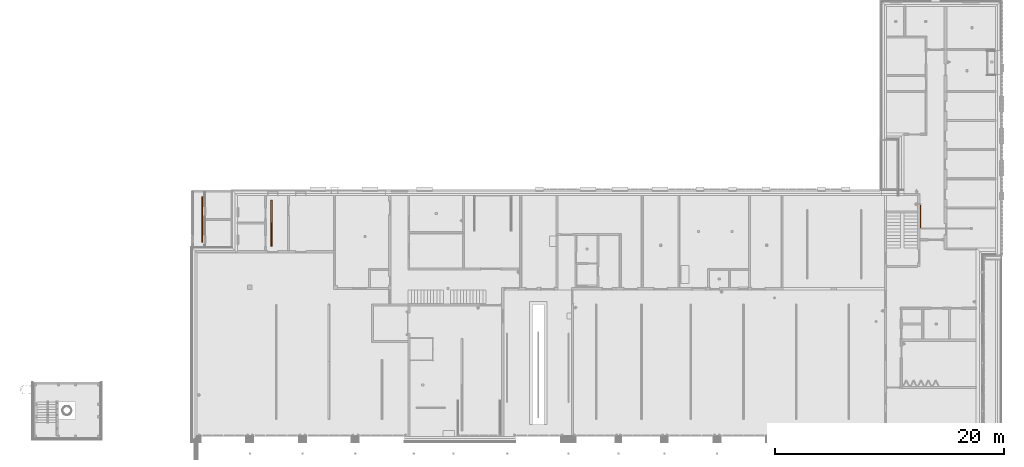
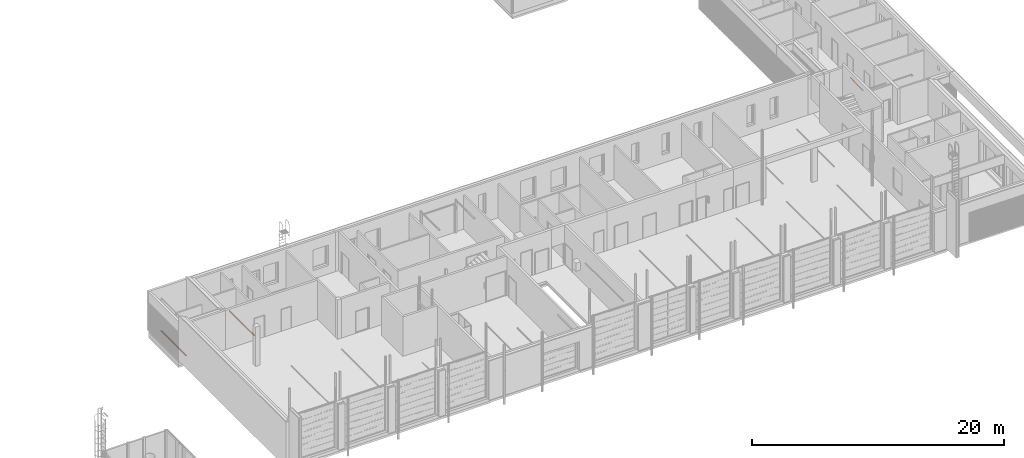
# One storey, part 105 of 112: 3 proxies.
"""IFC2X3 building model written with IfcOpenShell, lengths in millimetres."""

import ifcopenshell
import ifcopenshell.guid

model = None  # the IFC model being written
_history = None  # IfcOwnerHistory: only IFC2X3 demands one
_inside = {}  # id of a spatial element -> (the spatial element, [elements in it])
_under = {}  # id of a project, library or spatial element -> (it, [spatial elements below it])
_declared = {}  # id of a project -> (the project, [libraries it declares])
_typed = {}  # id of a type object -> (the type object, [elements of that type])
_made_of = {}  # id of a material, layer set ... -> (it, [elements and type objects made of it])


def new_model(schema):
    """Start an empty IFC model of exactly this schema.

    Asked for "IFC4X3", IfcOpenShell would pick the latest addendum, in which some entities
    have other attributes; the version numbers below select the first issue.
    IFC2X3 requires an IfcOwnerHistory on every rooted entity: one is made here for all.
    """
    global model, _history
    if schema == "IFC4X3":
        model = ifcopenshell.file(schema_version=(4, 3, 0, 0))
    else:
        model = ifcopenshell.file(schema=schema)
    _inside.clear()
    _under.clear()
    _declared.clear()
    _typed.clear()
    _made_of.clear()
    _history = None
    if model.schema == "IFC2X3":
        org = make("IfcOrganization", Name="unknown")
        user = make(
            "IfcPersonAndOrganization",
            ThePerson=make("IfcPerson", FamilyName="unknown"),
            TheOrganization=org,
        )
        app = make(
            "IfcApplication",
            ApplicationDeveloper=org,
            Version="unknown",
            ApplicationFullName="unknown",
            ApplicationIdentifier="unknown",
        )
        _history = make(
            "IfcOwnerHistory",
            OwningUser=user,
            OwningApplication=app,
            ChangeAction="ADDED",
            CreationDate=0,
        )
    return model


def make(cls, **values):
    """One entity of the class cls with the attributes given. An attribute that is None is left unset."""
    return model.create_entity(
        cls, **{name: value for name, value in values.items() if value is not None}
    )


def entity(cls, *values):
    """Any entity or typed value of the class cls, its attributes in the order of the schema. None: left unset."""
    e = model.create_entity(cls)
    for i, value in enumerate(values):
        if value is not None:
            e[i] = value
    return e


def rooted(cls, **values):
    """An entity with a GlobalId (a new one), such as an element, a storey or a relation."""
    return make(cls, GlobalId=ifcopenshell.guid.new(), OwnerHistory=_history, **values)


def si_unit(unit_type, name, prefix=None):
    """IfcSIUnit, for example si_unit("LENGTHUNIT", "METRE", prefix="MILLI")."""
    return make("IfcSIUnit", UnitType=unit_type, Prefix=prefix, Name=name)


def converted_unit(unit_type, name, factor, base, dimensions=None, offset=None):
    """IfcConversionBasedUnit, such as the inch: factor (a typed value) times the base unit."""
    return make(
        "IfcConversionBasedUnit"
        if offset is None
        else "IfcConversionBasedUnitWithOffset",
        ConversionOffset=offset,
        Dimensions=None
        if dimensions is None
        else entity("IfcDimensionalExponents", *dimensions),
        UnitType=unit_type,
        Name=name,
        ConversionFactor=make(
            "IfcMeasureWithUnit", ValueComponent=factor, UnitComponent=base
        ),
    )


def derived_unit(unit_type, elements):
    """IfcDerivedUnit: a product of units, each with its exponent."""
    return make(
        "IfcDerivedUnit",
        Elements=[
            make("IfcDerivedUnitElement", Unit=unit, Exponent=power)
            for unit, power in elements
        ],
        UnitType=unit_type,
    )


def money_unit(currency):
    """IfcMonetaryUnit."""
    return make("IfcMonetaryUnit", Currency=currency)


def assignment(units):
    """IfcUnitAssignment: the units of a project."""
    return None if units is None else make("IfcUnitAssignment", Units=units)


def point(xyz):
    """IfcCartesianPoint."""
    return None if xyz is None else make("IfcCartesianPoint", Coordinates=xyz)


def direction(xyz):
    """IfcDirection."""
    return None if xyz is None else make("IfcDirection", DirectionRatios=xyz)


def frame(location, z_axis=None, x_axis=None):
    """IfcAxis2Placement3D, a coordinate frame: its origin and axes. An axis left out is left unset."""
    return make(
        "IfcAxis2Placement3D",
        Location=point(location),
        Axis=direction(z_axis),
        RefDirection=direction(x_axis),
    )


def origin_with_axes():
    """The frame at (0, 0, 0) with the z axis (0, 0, 1) and the x axis (1, 0, 0) written out."""
    return frame((0.0, 0.0, 0.0), z_axis=(0.0, 0.0, 1.0), x_axis=(1.0, 0.0, 0.0))


def place(relative_to, where):
    """IfcLocalPlacement: puts the frame where relative to a parent placement (None: the world)."""
    return make(
        "IfcLocalPlacement", PlacementRelTo=relative_to, RelativePlacement=where
    )


def context(
    kind, dimensions, precision=None, world=None, true_north=None, identifier=None
):
    """IfcGeometricRepresentationContext, for example the 3D "Model" context."""
    return make(
        "IfcGeometricRepresentationContext",
        ContextIdentifier=identifier,
        ContextType=kind,
        CoordinateSpaceDimension=dimensions,
        Precision=precision,
        WorldCoordinateSystem=world,
        TrueNorth=true_north,
    )


def subcontext(parent, identifier, kind, view, scale=None):
    """IfcGeometricRepresentationSubContext, for example "Body" below "Model"."""
    return make(
        "IfcGeometricRepresentationSubContext",
        ContextIdentifier=identifier,
        ContextType=kind,
        ParentContext=parent,
        TargetScale=scale,
        TargetView=view,
    )


def project(units=None, contexts=None):
    """IfcProject with its units and contexts."""
    return rooted(
        "IfcProject",
        Name="project",
        RepresentationContexts=contexts,
        UnitsInContext=assignment(units),
    )


def spatial(cls, under=None, at=None, **own):
    """A site, building, storey or space (cls), placed at a placement, below another one or the project."""
    s = rooted(cls, ObjectPlacement=at, **own)
    if under is not None:
        _under.setdefault(under.id(), (under, []))[1].append(s)
    return s


def faces_of(points, faces, orient=None, outer=None):
    """IfcFace entities. A face is a list of loops; a loop is a list of indices into points, from 0.

    orient and outer hold one flag for each loop. By default every Orientation is true, the
    first loop of a face is its IfcFaceOuterBound and the others are IfcFaceBound.
    """
    made = []
    for i, loops in enumerate(faces):
        bounds = []
        for j, loop in enumerate(loops):
            is_outer = j == 0 if outer is None else outer[i][j]
            bounds.append(
                make(
                    "IfcFaceOuterBound" if is_outer else "IfcFaceBound",
                    Bound=make("IfcPolyLoop", Polygon=[points[k] for k in loop]),
                    Orientation=True if orient is None else orient[i][j],
                )
            )
        made.append(make("IfcFace", Bounds=bounds))
    return made


def faceted_brep(points, faces, orient=None, outer=None, voids=None):
    """IfcFacetedBrep: a solid bounded by flat faces; with voids (closed shells), ...WithVoids."""
    shared = [point(p) for p in points]
    hull = make("IfcClosedShell", CfsFaces=faces_of(shared, faces, orient, outer))
    if voids is None:
        return make("IfcFacetedBrep", Outer=hull)
    return make(
        "IfcFacetedBrepWithVoids",
        Outer=hull,
        Voids=[
            make(cls, CfsFaces=faces_of(shared, fs, o, b)) for cls, fs, o, b in voids
        ],
    )


def shape(context_of_items, identifier, shape_type, items):
    """IfcShapeRepresentation: the items that make up one representation, for example the "Body"."""
    return make(
        "IfcShapeRepresentation",
        ContextOfItems=context_of_items,
        RepresentationIdentifier=identifier,
        RepresentationType=shape_type,
        Items=items,
    )


def made_of(thing, what):
    """Note that an element or type object is made of a material, layer set ...; save() writes the relation."""
    if what is not None:
        _made_of.setdefault(what.id(), (what, []))[1].append(thing)
    return thing


def type_object(cls, material=None, **own):
    """A type object (cls), such as IfcWallType, which elements share."""
    return made_of(rooted(cls, **own), material)


def element(
    cls,
    number,
    at=None,
    inside=None,
    cuts=None,
    type_object=None,
    material=None,
    context=None,
    identifier="Body",
    shape_type=None,
    held_by="IfcProductDefinitionShape",
    body=None,
    shapes=None,
    **own,
):
    """One element of the class cls, such as IfcWall. Its Tag is "e" and its number.

    at: its placement. inside: the storey or other place that contains it. cuts: it is an
    opening in that element (IfcRelVoidsElement). A single representation is given by context,
    identifier, shape_type and body (its items); several are given by shapes. held_by: the class
    of the entity that holds the representations. save() writes the other relations.
    """
    e = rooted(cls, Tag="e%d" % number, ObjectPlacement=at, **own)
    if body is not None:
        shapes = [shape(context, identifier, shape_type, body)]
    if shapes is not None:
        e.Representation = make(held_by, Representations=shapes)
    if inside is not None:
        _inside.setdefault(inside.id(), (inside, []))[1].append(e)
    if cuts is not None:
        rooted(
            "IfcRelVoidsElement", RelatingBuildingElement=cuts, RelatedOpeningElement=e
        )
    if type_object is not None:
        _typed.setdefault(type_object.id(), (type_object, []))[1].append(e)
    return made_of(e, material)


def aggregate(whole, parts):
    """IfcRelAggregates: a whole, such as a stair, and the parts it consists of."""
    return rooted("IfcRelAggregates", RelatingObject=whole, RelatedObjects=parts)


def save(model, path):
    """Write the relations noted so far, then the file.

    IfcRelAggregates (storeys below a building ...), IfcRelContainedInSpatialStructure (elements
    in a storey), IfcRelDefinesByType, IfcRelAssociatesMaterial and IfcRelDeclares: one each for
    every whole, place, type object, material and project.
    """
    for whole, parts in _under.values():
        aggregate(whole, parts)
    for where, things in _inside.values():
        rooted(
            "IfcRelContainedInSpatialStructure",
            RelatedElements=things,
            RelatingStructure=where,
        )
    for kind, things in _typed.values():
        rooted("IfcRelDefinesByType", RelatedObjects=things, RelatingType=kind)
    for what, things in _made_of.values():
        rooted("IfcRelAssociatesMaterial", RelatedObjects=things, RelatingMaterial=what)
    for by, libraries in _declared.values():
        rooted("IfcRelDeclares", RelatingContext=by, RelatedDefinitions=libraries)
    model.write(path)


model = new_model("IFC2X3")

# Units and contexts
model_context = context("Model", 3, precision=0.01, world=origin_with_axes(), true_north=direction((0.0, 1.0)))
body_context = subcontext(model_context, "Body", "Model", "MODEL_VIEW")
ifc_project = project(units=[si_unit("LENGTHUNIT", "METRE", prefix="MILLI"), si_unit("AREAUNIT", "SQUARE_METRE"), si_unit("VOLUMEUNIT", "CUBIC_METRE"), converted_unit("PLANEANGLEUNIT", "DEGREE", entity("IfcPlaneAngleMeasure", 0.0174532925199), si_unit("PLANEANGLEUNIT", "RADIAN"), dimensions=[0, 0, 0, 0, 0, 0, 0]), si_unit("SOLIDANGLEUNIT", "STERADIAN"), money_unit("EUR"), converted_unit("TIMEUNIT", "Year", entity("IfcTimeMeasure", 31556926.0), si_unit("TIMEUNIT", "SECOND"), dimensions=[0, 0, 1, 0, 0, 0, 0]), si_unit("MASSUNIT", "GRAM", prefix="KILO"), si_unit("THERMODYNAMICTEMPERATUREUNIT", "DEGREE_CELSIUS"), si_unit("LUMINOUSINTENSITYUNIT", "LUMEN"), si_unit("ENERGYUNIT", "JOULE", prefix="MEGA"), derived_unit("THERMALCONDUCTANCEUNIT", [(si_unit("POWERUNIT", "WATT"), 1), (si_unit("LENGTHUNIT", "METRE"), -1), (si_unit("THERMODYNAMICTEMPERATUREUNIT", "KELVIN"), -1)]), derived_unit("SPECIFICHEATCAPACITYUNIT", [(si_unit("ENERGYUNIT", "JOULE"), 1), (si_unit("MASSUNIT", "GRAM", prefix="KILO"), -1), (si_unit("THERMODYNAMICTEMPERATUREUNIT", "KELVIN"), -1)]), derived_unit("MASSDENSITYUNIT", [(si_unit("MASSUNIT", "GRAM", prefix="KILO"), 1), (si_unit("VOLUMEUNIT", "CUBIC_METRE"), -1)])], contexts=[model_context])

# Site, building, storey
site_placement = place(None, origin_with_axes())
site = spatial("IfcSite", under=ifc_project, at=site_placement, Name="Politse- ja Piirivalveameti ning Päästeameti ühishoone", CompositionType="ELEMENT")
building_placement = place(site_placement, origin_with_axes())
building = spatial("IfcBuilding", under=site, at=building_placement, Name="Politse- ja Piirivalveameti ning Päästeameti ühishoone", CompositionType="ELEMENT")
storey_placement = place(building_placement, origin_with_axes())
storey = spatial("IfcBuildingStorey", under=building, at=storey_placement, Name="Esimene korrus", CompositionType="ELEMENT", Elevation=0.0)

# Proxies
building_element_proxy_type_1 = type_object("IfcBuildingElementProxyType", Name="Grid 23", PredefinedType="NOTDEFINED")
proxy_1_placement = place(storey_placement, frame((383.831650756, 16909.9882638, -100.0), z_axis=(0.0, 0.0, 1.0), x_axis=(1.0, 0.0, 0.0)))
element("IfcBuildingElementProxy", 1, at=proxy_1_placement, inside=storey, type_object=building_element_proxy_type_1, Name="Äravoolurenn (koertekennel)", context=body_context, shape_type="Brep", body=[
    faceted_brep([(0.0, 0.0, 0.0), (5.0, 5.0, 0.0), (5.0, 5.0, 100.0), (0.0, 0.0, 100.0), (0.0, 4000.0, 0.0), (5.0, 3995.0, 0.0), (5.0, 2001.0, 0.0), (5.0, 1999.0, 0.0), (5.0, 1999.0, 100.0), (5.0, 2001.0, 100.0), (5.0, 3995.0, 100.0), (0.0, 4000.0, 100.0)], [[[0, 1, 2, 3]], [[0, 4, 5, 6, 7, 1]], [[1, 7, 8, 2]], [[3, 2, 8, 9, 10, 11]], [[4, 0, 3, 11]], [[5, 4, 11, 10]], [[6, 5, 10, 9]], [[7, 6, 9, 8]]]),
    faceted_brep([(100.0, 4000.0, 0.0), (95.0, 3995.0, 0.0), (95.0, 3995.0, 100.0), (100.0, 4000.0, 100.0), (100.0, 0.0, 0.0), (95.0, 5.0, 0.0), (95.0, 1999.0, 0.0), (95.0, 2001.0, 0.0), (95.0, 2001.0, 100.0), (95.0, 1999.0, 100.0), (95.0, 5.0, 100.0), (100.0, 0.0, 100.0)], [[[0, 1, 2, 3]], [[0, 4, 5, 6, 7, 1]], [[1, 7, 8, 2]], [[3, 2, 8, 9, 10, 11]], [[4, 0, 3, 11]], [[5, 4, 11, 10]], [[6, 5, 10, 9]], [[7, 6, 9, 8]]]),
    faceted_brep([(100.0, 0.0, 0.0), (95.0, 5.0, 0.0), (95.0, 5.0, 100.0), (100.0, 0.0, 100.0), (0.0, 0.0, 0.0), (5.0, 5.0, 0.0), (33.1666666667, 5.0, 0.0), (35.1666666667, 5.0, 0.0), (64.8333333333, 5.0, 0.0), (66.8333333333, 5.0, 0.0), (66.8333333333, 5.0, 100.0), (64.8333333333, 5.0, 100.0), (35.1666666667, 5.0, 100.0), (33.1666666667, 5.0, 100.0), (5.0, 5.0, 100.0), (0.0, 0.0, 100.0)], [[[0, 1, 2, 3]], [[0, 4, 5, 6, 7, 8, 9, 1]], [[1, 9, 10, 2]], [[3, 2, 10, 11, 12, 13, 14, 15]], [[4, 0, 3, 15]], [[5, 4, 15, 14]], [[6, 5, 14, 13]], [[7, 6, 13, 12]], [[8, 7, 12, 11]], [[9, 8, 11, 10]]]),
    faceted_brep([(0.0, 4000.0, 0.0), (5.0, 3995.0, 0.0), (5.0, 3995.0, 100.0), (0.0, 4000.0, 100.0), (100.0, 4000.0, 0.0), (95.0, 3995.0, 0.0), (66.8333333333, 3995.0, 0.0), (64.8333333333, 3995.0, 0.0), (35.1666666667, 3995.0, 0.0), (33.1666666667, 3995.0, 0.0), (33.1666666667, 3995.0, 100.0), (35.1666666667, 3995.0, 100.0), (64.8333333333, 3995.0, 100.0), (66.8333333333, 3995.0, 100.0), (95.0, 3995.0, 100.0), (100.0, 4000.0, 100.0)], [[[0, 1, 2, 3]], [[0, 4, 5, 6, 7, 8, 9, 1]], [[1, 9, 10, 2]], [[3, 2, 10, 11, 12, 13, 14, 15]], [[4, 0, 3, 15]], [[5, 4, 15, 14]], [[6, 5, 14, 13]], [[7, 6, 13, 12]], [[8, 7, 12, 11]], [[9, 8, 11, 10]]]),
    faceted_brep([(33.1666666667, 5.0, 0.0), (35.1666666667, 5.0, 0.0), (35.1666666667, 5.0, 100.0), (33.1666666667, 5.0, 100.0), (33.1666666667, 1999.0, 0.0), (33.1666666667, 2001.0, 0.0), (33.1666666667, 3995.0, 0.0), (35.1666666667, 3995.0, 0.0), (35.1666666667, 2001.0, 0.0), (35.1666666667, 1999.0, 0.0), (35.1666666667, 1999.0, 100.0), (35.1666666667, 2001.0, 100.0), (35.1666666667, 3995.0, 100.0), (33.1666666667, 3995.0, 100.0), (33.1666666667, 2001.0, 100.0), (33.1666666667, 1999.0, 100.0)], [[[0, 1, 2, 3]], [[0, 4, 5, 6, 7, 8, 9, 1]], [[1, 9, 10, 2]], [[3, 2, 10, 11, 12, 13, 14, 15]], [[4, 0, 3, 15]], [[5, 4, 15, 14]], [[6, 5, 14, 13]], [[7, 6, 13, 12]], [[8, 7, 12, 11]], [[9, 8, 11, 10]]]),
    faceted_brep([(64.8333333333, 5.0, 0.0), (66.8333333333, 5.0, 0.0), (66.8333333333, 5.0, 100.0), (64.8333333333, 5.0, 100.0), (64.8333333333, 1999.0, 0.0), (64.8333333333, 2001.0, 0.0), (64.8333333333, 3995.0, 0.0), (66.8333333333, 3995.0, 0.0), (66.8333333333, 2001.0, 0.0), (66.8333333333, 1999.0, 0.0), (66.8333333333, 1999.0, 100.0), (66.8333333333, 2001.0, 100.0), (66.8333333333, 3995.0, 100.0), (64.8333333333, 3995.0, 100.0), (64.8333333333, 2001.0, 100.0), (64.8333333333, 1999.0, 100.0)], [[[0, 1, 2, 3]], [[0, 4, 5, 6, 7, 8, 9, 1]], [[1, 9, 10, 2]], [[3, 2, 10, 11, 12, 13, 14, 15]], [[4, 0, 3, 15]], [[5, 4, 15, 14]], [[6, 5, 14, 13]], [[7, 6, 13, 12]], [[8, 7, 12, 11]], [[9, 8, 11, 10]]]),
    faceted_brep([(33.1666666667, 1999.0, 0.0), (33.1666666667, 2001.0, 0.0), (33.1666666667, 2001.0, 100.0), (33.1666666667, 1999.0, 100.0), (5.0, 1999.0, 0.0), (5.0, 2001.0, 0.0), (5.0, 2001.0, 100.0), (5.0, 1999.0, 100.0)], [[[0, 1, 2, 3]], [[0, 4, 5, 1]], [[1, 5, 6, 2]], [[3, 2, 6, 7]], [[4, 0, 3, 7]], [[5, 4, 7, 6]]]),
    faceted_brep([(64.8333333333, 1999.0, 0.0), (64.8333333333, 2001.0, 0.0), (64.8333333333, 2001.0, 100.0), (64.8333333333, 1999.0, 100.0), (35.1666666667, 1999.0, 0.0), (35.1666666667, 2001.0, 0.0), (35.1666666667, 2001.0, 100.0), (35.1666666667, 1999.0, 100.0)], [[[0, 1, 2, 3]], [[0, 4, 5, 1]], [[1, 5, 6, 2]], [[3, 2, 6, 7]], [[4, 0, 3, 7]], [[5, 4, 7, 6]]]),
    faceted_brep([(95.0, 1999.0, 0.0), (95.0, 2001.0, 0.0), (95.0, 2001.0, 100.0), (95.0, 1999.0, 100.0), (66.8333333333, 1999.0, 0.0), (66.8333333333, 2001.0, 0.0), (66.8333333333, 2001.0, 100.0), (66.8333333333, 1999.0, 100.0)], [[[0, 1, 2, 3]], [[0, 4, 5, 1]], [[1, 5, 6, 2]], [[3, 2, 6, 7]], [[4, 0, 3, 7]], [[5, 4, 7, 6]]]),
    faceted_brep([(5.0, 5.0, 43.65), (33.1666666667, 5.0, 43.65), (33.1666666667, 5.0, 56.35), (5.0, 5.0, 56.35), (5.0, 1999.0, 43.65), (33.1666666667, 1999.0, 43.65), (33.1666666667, 1999.0, 56.35), (5.0, 1999.0, 56.35)], [[[0, 1, 2, 3]], [[0, 4, 5, 1]], [[1, 5, 6, 2]], [[3, 2, 6, 7]], [[4, 0, 3, 7]], [[5, 4, 7, 6]]]),
    faceted_brep([(5.0, 2001.0, 43.65), (33.1666666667, 2001.0, 43.65), (33.1666666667, 2001.0, 56.35), (5.0, 2001.0, 56.35), (5.0, 3995.0, 43.65), (33.1666666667, 3995.0, 43.65), (33.1666666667, 3995.0, 56.35), (5.0, 3995.0, 56.35)], [[[0, 1, 2, 3]], [[0, 4, 5, 1]], [[1, 5, 6, 2]], [[3, 2, 6, 7]], [[4, 0, 3, 7]], [[5, 4, 7, 6]]]),
    faceted_brep([(35.1666666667, 5.0, 43.65), (64.8333333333, 5.0, 43.65), (64.8333333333, 5.0, 56.35), (35.1666666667, 5.0, 56.35), (35.1666666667, 1999.0, 43.65), (64.8333333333, 1999.0, 43.65), (64.8333333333, 1999.0, 56.35), (35.1666666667, 1999.0, 56.35)], [[[0, 1, 2, 3]], [[0, 4, 5, 1]], [[1, 5, 6, 2]], [[3, 2, 6, 7]], [[4, 0, 3, 7]], [[5, 4, 7, 6]]]),
    faceted_brep([(35.1666666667, 2001.0, 43.65), (64.8333333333, 2001.0, 43.65), (64.8333333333, 2001.0, 56.35), (35.1666666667, 2001.0, 56.35), (35.1666666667, 3995.0, 43.65), (64.8333333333, 3995.0, 43.65), (64.8333333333, 3995.0, 56.35), (35.1666666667, 3995.0, 56.35)], [[[0, 1, 2, 3]], [[0, 4, 5, 1]], [[1, 5, 6, 2]], [[3, 2, 6, 7]], [[4, 0, 3, 7]], [[5, 4, 7, 6]]]),
    faceted_brep([(66.8333333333, 5.0, 43.65), (95.0, 5.0, 43.65), (95.0, 5.0, 56.35), (66.8333333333, 5.0, 56.35), (66.8333333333, 1999.0, 43.65), (95.0, 1999.0, 43.65), (95.0, 1999.0, 56.35), (66.8333333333, 1999.0, 56.35)], [[[0, 1, 2, 3]], [[0, 4, 5, 1]], [[1, 5, 6, 2]], [[3, 2, 6, 7]], [[4, 0, 3, 7]], [[5, 4, 7, 6]]]),
    faceted_brep([(66.8333333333, 2001.0, 43.65), (95.0, 2001.0, 43.65), (95.0, 2001.0, 56.35), (66.8333333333, 2001.0, 56.35), (66.8333333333, 3995.0, 43.65), (95.0, 3995.0, 43.65), (95.0, 3995.0, 56.35), (66.8333333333, 3995.0, 56.35)], [[[0, 1, 2, 3]], [[0, 4, 5, 1]], [[1, 5, 6, 2]], [[3, 2, 6, 7]], [[4, 0, 3, 7]], [[5, 4, 7, 6]]]),
])
proxy_2_placement = place(storey_placement, frame((6440.00901389, 16590.0244444, -100.0), z_axis=(0.0, 0.0, 1.0), x_axis=(1.0, 0.0, 0.0)))
element("IfcBuildingElementProxy", 2, at=proxy_2_placement, inside=storey, type_object=building_element_proxy_type_1, Name="Äravoolurenn (102)", context=body_context, shape_type="Brep", body=[
    faceted_brep([(0.0, 0.0, 0.0), (5.0, 5.0, 0.0), (5.0, 5.0, 100.0), (0.0, 0.0, 100.0), (0.0, 4000.0, 0.0), (5.0, 3995.0, 0.0), (5.0, 2001.0, 0.0), (5.0, 1999.0, 0.0), (5.0, 1999.0, 100.0), (5.0, 2001.0, 100.0), (5.0, 3995.0, 100.0), (0.0, 4000.0, 100.0)], [[[0, 1, 2, 3]], [[0, 4, 5, 6, 7, 1]], [[1, 7, 8, 2]], [[3, 2, 8, 9, 10, 11]], [[4, 0, 3, 11]], [[5, 4, 11, 10]], [[6, 5, 10, 9]], [[7, 6, 9, 8]]]),
    faceted_brep([(100.0, 4000.0, 0.0), (95.0, 3995.0, 0.0), (95.0, 3995.0, 100.0), (100.0, 4000.0, 100.0), (100.0, 0.0, 0.0), (95.0, 5.0, 0.0), (95.0, 1999.0, 0.0), (95.0, 2001.0, 0.0), (95.0, 2001.0, 100.0), (95.0, 1999.0, 100.0), (95.0, 5.0, 100.0), (100.0, 0.0, 100.0)], [[[0, 1, 2, 3]], [[0, 4, 5, 6, 7, 1]], [[1, 7, 8, 2]], [[3, 2, 8, 9, 10, 11]], [[4, 0, 3, 11]], [[5, 4, 11, 10]], [[6, 5, 10, 9]], [[7, 6, 9, 8]]]),
    faceted_brep([(100.0, 0.0, 0.0), (95.0, 5.0, 0.0), (95.0, 5.0, 100.0), (100.0, 0.0, 100.0), (0.0, 0.0, 0.0), (5.0, 5.0, 0.0), (25.25, 5.0, 0.0), (27.25, 5.0, 0.0), (49.0, 5.0, 0.0), (51.0, 5.0, 0.0), (72.75, 5.0, 0.0), (74.75, 5.0, 0.0), (74.75, 5.0, 100.0), (72.75, 5.0, 100.0), (51.0, 5.0, 100.0), (49.0, 5.0, 100.0), (27.25, 5.0, 100.0), (25.25, 5.0, 100.0), (5.0, 5.0, 100.0), (0.0, 0.0, 100.0)], [[[0, 1, 2, 3]], [[0, 4, 5, 6, 7, 8, 9, 10, 11, 1]], [[1, 11, 12, 2]], [[3, 2, 12, 13, 14, 15, 16, 17, 18, 19]], [[4, 0, 3, 19]], [[5, 4, 19, 18]], [[6, 5, 18, 17]], [[7, 6, 17, 16]], [[8, 7, 16, 15]], [[9, 8, 15, 14]], [[10, 9, 14, 13]], [[11, 10, 13, 12]]]),
    faceted_brep([(0.0, 4000.0, 0.0), (5.0, 3995.0, 0.0), (5.0, 3995.0, 100.0), (0.0, 4000.0, 100.0), (100.0, 4000.0, 0.0), (95.0, 3995.0, 0.0), (74.75, 3995.0, 0.0), (72.75, 3995.0, 0.0), (51.0, 3995.0, 0.0), (49.0, 3995.0, 0.0), (27.25, 3995.0, 0.0), (25.25, 3995.0, 0.0), (25.25, 3995.0, 100.0), (27.25, 3995.0, 100.0), (49.0, 3995.0, 100.0), (51.0, 3995.0, 100.0), (72.75, 3995.0, 100.0), (74.75, 3995.0, 100.0), (95.0, 3995.0, 100.0), (100.0, 4000.0, 100.0)], [[[0, 1, 2, 3]], [[0, 4, 5, 6, 7, 8, 9, 10, 11, 1]], [[1, 11, 12, 2]], [[3, 2, 12, 13, 14, 15, 16, 17, 18, 19]], [[4, 0, 3, 19]], [[5, 4, 19, 18]], [[6, 5, 18, 17]], [[7, 6, 17, 16]], [[8, 7, 16, 15]], [[9, 8, 15, 14]], [[10, 9, 14, 13]], [[11, 10, 13, 12]]]),
    faceted_brep([(25.25, 5.0, 0.0), (27.25, 5.0, 0.0), (27.25, 5.0, 100.0), (25.25, 5.0, 100.0), (25.25, 1999.0, 0.0), (25.25, 2001.0, 0.0), (25.25, 3995.0, 0.0), (27.25, 3995.0, 0.0), (27.25, 2001.0, 0.0), (27.25, 1999.0, 0.0), (27.25, 1999.0, 100.0), (27.25, 2001.0, 100.0), (27.25, 3995.0, 100.0), (25.25, 3995.0, 100.0), (25.25, 2001.0, 100.0), (25.25, 1999.0, 100.0)], [[[0, 1, 2, 3]], [[0, 4, 5, 6, 7, 8, 9, 1]], [[1, 9, 10, 2]], [[3, 2, 10, 11, 12, 13, 14, 15]], [[4, 0, 3, 15]], [[5, 4, 15, 14]], [[6, 5, 14, 13]], [[7, 6, 13, 12]], [[8, 7, 12, 11]], [[9, 8, 11, 10]]]),
    faceted_brep([(49.0, 5.0, 0.0), (51.0, 5.0, 0.0), (51.0, 5.0, 100.0), (49.0, 5.0, 100.0), (49.0, 1999.0, 0.0), (49.0, 2001.0, 0.0), (49.0, 3995.0, 0.0), (51.0, 3995.0, 0.0), (51.0, 2001.0, 0.0), (51.0, 1999.0, 0.0), (51.0, 1999.0, 100.0), (51.0, 2001.0, 100.0), (51.0, 3995.0, 100.0), (49.0, 3995.0, 100.0), (49.0, 2001.0, 100.0), (49.0, 1999.0, 100.0)], [[[0, 1, 2, 3]], [[0, 4, 5, 6, 7, 8, 9, 1]], [[1, 9, 10, 2]], [[3, 2, 10, 11, 12, 13, 14, 15]], [[4, 0, 3, 15]], [[5, 4, 15, 14]], [[6, 5, 14, 13]], [[7, 6, 13, 12]], [[8, 7, 12, 11]], [[9, 8, 11, 10]]]),
    faceted_brep([(72.75, 5.0, 0.0), (74.75, 5.0, 0.0), (74.75, 5.0, 100.0), (72.75, 5.0, 100.0), (72.75, 1999.0, 0.0), (72.75, 2001.0, 0.0), (72.75, 3995.0, 0.0), (74.75, 3995.0, 0.0), (74.75, 2001.0, 0.0), (74.75, 1999.0, 0.0), (74.75, 1999.0, 100.0), (74.75, 2001.0, 100.0), (74.75, 3995.0, 100.0), (72.75, 3995.0, 100.0), (72.75, 2001.0, 100.0), (72.75, 1999.0, 100.0)], [[[0, 1, 2, 3]], [[0, 4, 5, 6, 7, 8, 9, 1]], [[1, 9, 10, 2]], [[3, 2, 10, 11, 12, 13, 14, 15]], [[4, 0, 3, 15]], [[5, 4, 15, 14]], [[6, 5, 14, 13]], [[7, 6, 13, 12]], [[8, 7, 12, 11]], [[9, 8, 11, 10]]]),
    faceted_brep([(25.25, 1999.0, 0.0), (25.25, 2001.0, 0.0), (25.25, 2001.0, 100.0), (25.25, 1999.0, 100.0), (5.0, 1999.0, 0.0), (5.0, 2001.0, 0.0), (5.0, 2001.0, 100.0), (5.0, 1999.0, 100.0)], [[[0, 1, 2, 3]], [[0, 4, 5, 1]], [[1, 5, 6, 2]], [[3, 2, 6, 7]], [[4, 0, 3, 7]], [[5, 4, 7, 6]]]),
    faceted_brep([(49.0, 1999.0, 0.0), (49.0, 2001.0, 0.0), (49.0, 2001.0, 100.0), (49.0, 1999.0, 100.0), (27.25, 1999.0, 0.0), (27.25, 2001.0, 0.0), (27.25, 2001.0, 100.0), (27.25, 1999.0, 100.0)], [[[0, 1, 2, 3]], [[0, 4, 5, 1]], [[1, 5, 6, 2]], [[3, 2, 6, 7]], [[4, 0, 3, 7]], [[5, 4, 7, 6]]]),
    faceted_brep([(72.75, 1999.0, 0.0), (72.75, 2001.0, 0.0), (72.75, 2001.0, 100.0), (72.75, 1999.0, 100.0), (51.0, 1999.0, 0.0), (51.0, 2001.0, 0.0), (51.0, 2001.0, 100.0), (51.0, 1999.0, 100.0)], [[[0, 1, 2, 3]], [[0, 4, 5, 1]], [[1, 5, 6, 2]], [[3, 2, 6, 7]], [[4, 0, 3, 7]], [[5, 4, 7, 6]]]),
    faceted_brep([(95.0, 1999.0, 0.0), (95.0, 2001.0, 0.0), (95.0, 2001.0, 100.0), (95.0, 1999.0, 100.0), (74.75, 1999.0, 0.0), (74.75, 2001.0, 0.0), (74.75, 2001.0, 100.0), (74.75, 1999.0, 100.0)], [[[0, 1, 2, 3]], [[0, 4, 5, 1]], [[1, 5, 6, 2]], [[3, 2, 6, 7]], [[4, 0, 3, 7]], [[5, 4, 7, 6]]]),
    faceted_brep([(5.0, 5.0, 43.65), (25.25, 5.0, 43.65), (25.25, 5.0, 56.35), (5.0, 5.0, 56.35), (5.0, 1999.0, 43.65), (25.25, 1999.0, 43.65), (25.25, 1999.0, 56.35), (5.0, 1999.0, 56.35)], [[[0, 1, 2, 3]], [[0, 4, 5, 1]], [[1, 5, 6, 2]], [[3, 2, 6, 7]], [[4, 0, 3, 7]], [[5, 4, 7, 6]]]),
    faceted_brep([(5.0, 2001.0, 43.65), (25.25, 2001.0, 43.65), (25.25, 2001.0, 56.35), (5.0, 2001.0, 56.35), (5.0, 3995.0, 43.65), (25.25, 3995.0, 43.65), (25.25, 3995.0, 56.35), (5.0, 3995.0, 56.35)], [[[0, 1, 2, 3]], [[0, 4, 5, 1]], [[1, 5, 6, 2]], [[3, 2, 6, 7]], [[4, 0, 3, 7]], [[5, 4, 7, 6]]]),
    faceted_brep([(27.25, 5.0, 43.65), (49.0, 5.0, 43.65), (49.0, 5.0, 56.35), (27.25, 5.0, 56.35), (27.25, 1999.0, 43.65), (49.0, 1999.0, 43.65), (49.0, 1999.0, 56.35), (27.25, 1999.0, 56.35)], [[[0, 1, 2, 3]], [[0, 4, 5, 1]], [[1, 5, 6, 2]], [[3, 2, 6, 7]], [[4, 0, 3, 7]], [[5, 4, 7, 6]]]),
    faceted_brep([(27.25, 2001.0, 43.65), (49.0, 2001.0, 43.65), (49.0, 2001.0, 56.35), (27.25, 2001.0, 56.35), (27.25, 3995.0, 43.65), (49.0, 3995.0, 43.65), (49.0, 3995.0, 56.35), (27.25, 3995.0, 56.35)], [[[0, 1, 2, 3]], [[0, 4, 5, 1]], [[1, 5, 6, 2]], [[3, 2, 6, 7]], [[4, 0, 3, 7]], [[5, 4, 7, 6]]]),
    faceted_brep([(51.0, 5.0, 43.65), (72.75, 5.0, 43.65), (72.75, 5.0, 56.35), (51.0, 5.0, 56.35), (51.0, 1999.0, 43.65), (72.75, 1999.0, 43.65), (72.75, 1999.0, 56.35), (51.0, 1999.0, 56.35)], [[[0, 1, 2, 3]], [[0, 4, 5, 1]], [[1, 5, 6, 2]], [[3, 2, 6, 7]], [[4, 0, 3, 7]], [[5, 4, 7, 6]]]),
    faceted_brep([(51.0, 2001.0, 43.65), (72.75, 2001.0, 43.65), (72.75, 2001.0, 56.35), (51.0, 2001.0, 56.35), (51.0, 3995.0, 43.65), (72.75, 3995.0, 43.65), (72.75, 3995.0, 56.35), (51.0, 3995.0, 56.35)], [[[0, 1, 2, 3]], [[0, 4, 5, 1]], [[1, 5, 6, 2]], [[3, 2, 6, 7]], [[4, 0, 3, 7]], [[5, 4, 7, 6]]]),
    faceted_brep([(74.75, 5.0, 43.65), (95.0, 5.0, 43.65), (95.0, 5.0, 56.35), (74.75, 5.0, 56.35), (74.75, 1999.0, 43.65), (95.0, 1999.0, 43.65), (95.0, 1999.0, 56.35), (74.75, 1999.0, 56.35)], [[[0, 1, 2, 3]], [[0, 4, 5, 1]], [[1, 5, 6, 2]], [[3, 2, 6, 7]], [[4, 0, 3, 7]], [[5, 4, 7, 6]]]),
    faceted_brep([(74.75, 2001.0, 43.65), (95.0, 2001.0, 43.65), (95.0, 2001.0, 56.35), (74.75, 2001.0, 56.35), (74.75, 3995.0, 43.65), (95.0, 3995.0, 43.65), (95.0, 3995.0, 56.35), (74.75, 3995.0, 56.35)], [[[0, 1, 2, 3]], [[0, 4, 5, 1]], [[1, 5, 6, 2]], [[3, 2, 6, 7]], [[4, 0, 3, 7]], [[5, 4, 7, 6]]]),
])
building_element_proxy_type_2 = type_object("IfcBuildingElementProxyType", Name="Tube 23", PredefinedType="NOTDEFINED")
proxy_3_placement = place(storey_placement, frame((63110.6441918, 20203.9447321, 2925.0), z_axis=(0.0, 0.0, 1.0), x_axis=(0.0, 1.0, 0.0)))
element("IfcBuildingElementProxy", 3, at=proxy_3_placement, inside=storey, type_object=building_element_proxy_type_2, Name="Balloon Novec 1231", context=body_context, shape_type="Brep", body=[
    faceted_brep([(0.0, 0.0, -25.0), (0.0, 6.47047612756, -24.1481456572), (0.0, 12.5, -21.6506350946), (0.0, 17.6776695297, -17.6776695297), (0.0, 21.6506350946, -12.5), (0.0, 24.1481456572, -6.47047612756), (0.0, 25.0, 0.0), (0.0, 24.1481456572, 6.47047612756), (0.0, 21.6506350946, 12.5), (0.0, 17.6776695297, 17.6776695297), (0.0, 12.5, 21.6506350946), (0.0, 6.47047612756, 24.1481456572), (0.0, 0.0, 25.0), (0.0, -6.47047612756, 24.1481456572), (0.0, -12.5, 21.6506350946), (0.0, -17.6776695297, 17.6776695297), (0.0, -21.6506350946, 12.5), (0.0, -24.1481456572, 6.47047612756), (0.0, -25.0, 0.0), (0.0, -24.1481456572, -6.47047612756), (0.0, -21.6506350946, -12.5), (0.0, -17.6776695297, -17.6776695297), (0.0, -12.5, -21.6506350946), (0.0, -6.47047612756, -24.1481456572), (0.0, -11.0, -19.0525588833), (0.0, -15.5563491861, -15.5563491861), (0.0, -19.0525588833, -11.0), (0.0, -21.2503681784, -5.69401899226), (0.0, -22.0, 0.0), (0.0, -21.2503681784, 5.69401899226), (0.0, -19.0525588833, 11.0), (0.0, -15.5563491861, 15.5563491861), (0.0, -11.0, 19.0525588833), (0.0, -5.69401899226, 21.2503681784), (0.0, 0.0, 22.0), (0.0, 5.69401899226, 21.2503681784), (0.0, 11.0, 19.0525588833), (0.0, 15.5563491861, 15.5563491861), (0.0, 19.0525588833, 11.0), (0.0, 21.2503681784, 5.69401899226), (0.0, 22.0, 0.0), (0.0, 21.2503681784, -5.69401899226), (0.0, 19.0525588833, -11.0), (0.0, 15.5563491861, -15.5563491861), (0.0, 11.0, -19.0525588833), (0.0, 5.69401899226, -21.2503681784), (0.0, 0.0, -22.0), (0.0, -5.69401899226, -21.2503681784), (-2037.6355931, 0.0, -25.0), (-2037.6355931, 6.47047612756, -24.1481456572), (-2037.6355931, 12.5, -21.6506350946), (-2037.6355931, 17.6776695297, -17.6776695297), (-2037.6355931, 21.6506350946, -12.5), (-2037.6355931, 24.1481456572, -6.47047612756), (-2037.6355931, 25.0, 0.0), (-2037.6355931, 24.1481456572, 6.47047612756), (-2037.6355931, 21.6506350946, 12.5), (-2037.6355931, 17.6776695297, 17.6776695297), (-2037.6355931, 12.5, 21.6506350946), (-2037.6355931, 6.47047612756, 24.1481456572), (-2037.6355931, 0.0, 25.0), (-2037.6355931, -6.47047612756, 24.1481456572), (-2037.6355931, -12.5, 21.6506350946), (-2037.6355931, -17.6776695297, 17.6776695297), (-2037.6355931, -21.6506350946, 12.5), (-2037.6355931, -24.1481456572, 6.47047612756), (-2037.6355931, -25.0, 0.0), (-2037.6355931, -24.1481456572, -6.47047612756), (-2037.6355931, -21.6506350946, -12.5), (-2037.6355931, -17.6776695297, -17.6776695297), (-2037.6355931, -12.5, -21.6506350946), (-2037.6355931, -6.47047612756, -24.1481456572), (-2037.6355931, -15.5563491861, -15.5563491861), (-2037.6355931, -11.0, -19.0525588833), (-2037.6355931, -19.0525588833, -11.0), (-2037.6355931, -21.2503681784, -5.69401899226), (-2037.6355931, -22.0, 0.0), (-2037.6355931, -21.2503681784, 5.69401899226), (-2037.6355931, -19.0525588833, 11.0), (-2037.6355931, -15.5563491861, 15.5563491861), (-2037.6355931, -11.0, 19.0525588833), (-2037.6355931, -5.69401899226, 21.2503681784), (-2037.6355931, 0.0, 22.0), (-2037.6355931, 5.69401899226, 21.2503681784), (-2037.6355931, 11.0, 19.0525588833), (-2037.6355931, 15.5563491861, 15.5563491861), (-2037.6355931, 19.0525588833, 11.0), (-2037.6355931, 21.2503681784, 5.69401899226), (-2037.6355931, 22.0, 0.0), (-2037.6355931, 21.2503681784, -5.69401899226), (-2037.6355931, 19.0525588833, -11.0), (-2037.6355931, 15.5563491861, -15.5563491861), (-2037.6355931, 11.0, -19.0525588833), (-2037.6355931, 5.69401899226, -21.2503681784), (-2037.6355931, 0.0, -22.0), (-2037.6355931, -5.69401899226, -21.2503681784)], [[[0, 1, 2, 3, 4, 5, 6, 7, 8, 9, 10, 11, 12, 13, 14, 15, 16, 17, 18, 19, 20, 21, 22, 23], [24, 25, 26, 27, 28, 29, 30, 31, 32, 33, 34, 35, 36, 37, 38, 39, 40, 41, 42, 43, 44, 45, 46, 47]], [[48, 49, 1, 0]], [[49, 50, 2, 1]], [[50, 51, 3, 2]], [[51, 52, 4, 3]], [[52, 53, 5, 4]], [[53, 54, 6, 5]], [[54, 55, 7, 6]], [[55, 56, 8, 7]], [[56, 57, 9, 8]], [[57, 58, 10, 9]], [[58, 59, 11, 10]], [[59, 60, 12, 11]], [[60, 61, 13, 12]], [[61, 62, 14, 13]], [[62, 63, 15, 14]], [[63, 64, 16, 15]], [[64, 65, 17, 16]], [[65, 66, 18, 17]], [[66, 67, 19, 18]], [[67, 68, 20, 19]], [[68, 69, 21, 20]], [[69, 70, 22, 21]], [[70, 71, 23, 22]], [[71, 48, 0, 23]], [[72, 25, 24, 73]], [[74, 26, 25, 72]], [[75, 27, 26, 74]], [[76, 28, 27, 75]], [[77, 29, 28, 76]], [[78, 30, 29, 77]], [[79, 31, 30, 78]], [[80, 32, 31, 79]], [[81, 33, 32, 80]], [[82, 34, 33, 81]], [[83, 35, 34, 82]], [[84, 36, 35, 83]], [[85, 37, 36, 84]], [[86, 38, 37, 85]], [[87, 39, 38, 86]], [[88, 40, 39, 87]], [[89, 41, 40, 88]], [[90, 42, 41, 89]], [[91, 43, 42, 90]], [[92, 44, 43, 91]], [[93, 45, 44, 92]], [[94, 46, 45, 93]], [[95, 47, 46, 94]], [[73, 24, 47, 95]], [[70, 69, 68, 67, 66, 65, 64, 63, 62, 61, 60, 59, 58, 57, 56, 55, 54, 53, 52, 51, 50, 49, 48, 71], [92, 91, 90, 89, 88, 87, 86, 85, 84, 83, 82, 81, 80, 79, 78, 77, 76, 75, 74, 72, 73, 95, 94, 93]]]),
])

save(model, "model.ifc")
